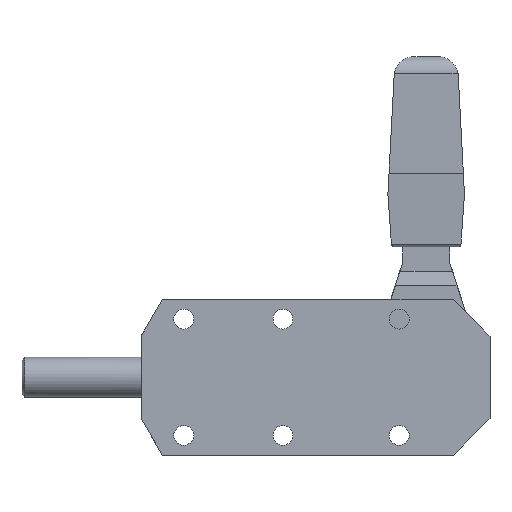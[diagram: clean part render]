
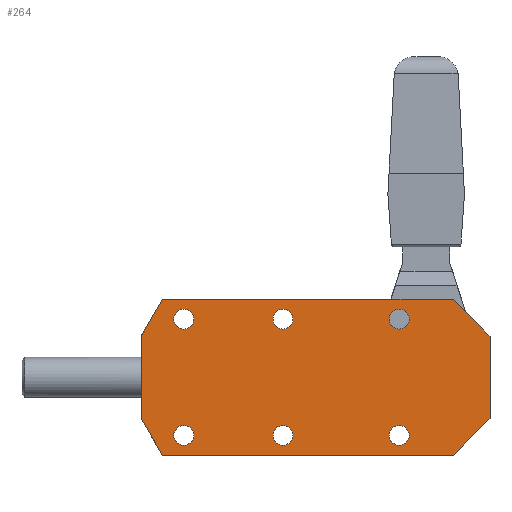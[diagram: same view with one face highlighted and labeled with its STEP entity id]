
A CAD part, front view. The second image highlights one B-rep face of the part: STEP entity #264.
In plain terms, the highlighted planar face has unit normal (0, -1, 0).
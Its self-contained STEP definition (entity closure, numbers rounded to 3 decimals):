
#264 = ADVANCED_FACE( '', ( #422, #423, #424, #425, #426, #427, #428 ), #429, .F. );
#422 = FACE_BOUND( '', #751, .T. );
#423 = FACE_BOUND( '', #752, .T. );
#424 = FACE_BOUND( '', #753, .T. );
#425 = FACE_BOUND( '', #754, .T. );
#426 = FACE_BOUND( '', #755, .T. );
#427 = FACE_BOUND( '', #756, .T. );
#428 = FACE_OUTER_BOUND( '', #757, .T. );
#429 = PLANE( '', #758 );
#751 = EDGE_LOOP( '', ( #1270 ) );
#752 = EDGE_LOOP( '', ( #1271 ) );
#753 = EDGE_LOOP( '', ( #1272 ) );
#754 = EDGE_LOOP( '', ( #1273 ) );
#755 = EDGE_LOOP( '', ( #1274 ) );
#756 = EDGE_LOOP( '', ( #1275 ) );
#757 = EDGE_LOOP( '', ( #1276, #1277, #1278, #1279, #1280, #1281, #1282, #1283 ) );
#758 = AXIS2_PLACEMENT_3D( '', #1284, #1285, #1286 );
#1270 = ORIENTED_EDGE( '', *, *, #2189, .F. );
#1271 = ORIENTED_EDGE( '', *, *, #2190, .F. );
#1272 = ORIENTED_EDGE( '', *, *, #2191, .F. );
#1273 = ORIENTED_EDGE( '', *, *, #2192, .F. );
#1274 = ORIENTED_EDGE( '', *, *, #2193, .F. );
#1275 = ORIENTED_EDGE( '', *, *, #2194, .F. );
#1276 = ORIENTED_EDGE( '', *, *, #2195, .T. );
#1277 = ORIENTED_EDGE( '', *, *, #2196, .T. );
#1278 = ORIENTED_EDGE( '', *, *, #2197, .T. );
#1279 = ORIENTED_EDGE( '', *, *, #2198, .F. );
#1280 = ORIENTED_EDGE( '', *, *, #2199, .F. );
#1281 = ORIENTED_EDGE( '', *, *, #2200, .F. );
#1282 = ORIENTED_EDGE( '', *, *, #2201, .F. );
#1283 = ORIENTED_EDGE( '', *, *, #2183, .F. );
#1284 = CARTESIAN_POINT( '', ( 39.5, 0., 15. ) );
#1285 = DIRECTION( '', ( 0., 1., 0. ) );
#1286 = DIRECTION( '', ( 0., 0., 1. ) );
#2183 = EDGE_CURVE( '', #2568, #2570, #2571, .T. );
#2189 = EDGE_CURVE( '', #2577, #2577, #2578, .T. );
#2190 = EDGE_CURVE( '', #2579, #2579, #2580, .T. );
#2191 = EDGE_CURVE( '', #2581, #2581, #2582, .T. );
#2192 = EDGE_CURVE( '', #2583, #2583, #2584, .T. );
#2193 = EDGE_CURVE( '', #2585, #2585, #2586, .T. );
#2194 = EDGE_CURVE( '', #2587, #2587, #2588, .T. );
#2195 = EDGE_CURVE( '', #2568, #2589, #2590, .T. );
#2196 = EDGE_CURVE( '', #2589, #2591, #2592, .T. );
#2197 = EDGE_CURVE( '', #2591, #2593, #2594, .T. );
#2198 = EDGE_CURVE( '', #2595, #2593, #2596, .T. );
#2199 = EDGE_CURVE( '', #2597, #2595, #2598, .T. );
#2200 = EDGE_CURVE( '', #2599, #2597, #2600, .T. );
#2201 = EDGE_CURVE( '', #2570, #2599, #2601, .T. );
#2568 = VERTEX_POINT( '', #3250 );
#2570 = VERTEX_POINT( '', #3253 );
#2571 = LINE( '', #3254, #3255 );
#2577 = VERTEX_POINT( '', #3266 );
#2578 = CIRCLE( '', #3267, 3.5 );
#2579 = VERTEX_POINT( '', #3268 );
#2580 = CIRCLE( '', #3269, 3.5 );
#2581 = VERTEX_POINT( '', #3270 );
#2582 = CIRCLE( '', #3271, 3.5 );
#2583 = VERTEX_POINT( '', #3272 );
#2584 = CIRCLE( '', #3273, 3.5 );
#2585 = VERTEX_POINT( '', #3274 );
#2586 = CIRCLE( '', #3275, 3.5 );
#2587 = VERTEX_POINT( '', #3276 );
#2588 = CIRCLE( '', #3277, 3.5 );
#2589 = VERTEX_POINT( '', #3278 );
#2590 = LINE( '', #3279, #3280 );
#2591 = VERTEX_POINT( '', #3281 );
#2592 = LINE( '', #3282, #3283 );
#2593 = VERTEX_POINT( '', #3284 );
#2594 = LINE( '', #3285, #3286 );
#2595 = VERTEX_POINT( '', #3287 );
#2596 = LINE( '', #3288, #3289 );
#2597 = VERTEX_POINT( '', #3290 );
#2598 = LINE( '', #3291, #3292 );
#2599 = VERTEX_POINT( '', #3293 );
#2600 = LINE( '', #3294, #3295 );
#2601 = LINE( '', #3296, #3297 );
#3250 = CARTESIAN_POINT( '', ( 7.01, 0., 27.5 ) );
#3253 = CARTESIAN_POINT( '', ( 109.5, 0., 27.5 ) );
#3254 = CARTESIAN_POINT( '', ( -0.5, 0., 27.5 ) );
#3255 = VECTOR( '', #4152, 1000. );
#3266 = CARTESIAN_POINT( '', ( 90.5, 0., -24. ) );
#3267 = AXIS2_PLACEMENT_3D( '', #4158, #4159, #4160 );
#3268 = CARTESIAN_POINT( '', ( 90.5, 0., 17. ) );
#3269 = AXIS2_PLACEMENT_3D( '', #4161, #4162, #4163 );
#3270 = CARTESIAN_POINT( '', ( 14.5, 0., -24. ) );
#3271 = AXIS2_PLACEMENT_3D( '', #4164, #4165, #4166 );
#3272 = CARTESIAN_POINT( '', ( 49.5, 0., 17. ) );
#3273 = AXIS2_PLACEMENT_3D( '', #4167, #4168, #4169 );
#3274 = CARTESIAN_POINT( '', ( 49.5, 0., -24. ) );
#3275 = AXIS2_PLACEMENT_3D( '', #4170, #4171, #4172 );
#3276 = CARTESIAN_POINT( '', ( 14.5, 0., 17. ) );
#3277 = AXIS2_PLACEMENT_3D( '', #4173, #4174, #4175 );
#3278 = CARTESIAN_POINT( '', ( -0.5, 0., 14.5 ) );
#3279 = CARTESIAN_POINT( '', ( 7.01, 0., 27.5 ) );
#3280 = VECTOR( '', #4176, 1000. );
#3281 = CARTESIAN_POINT( '', ( -0.5, 0., -14.5 ) );
#3282 = CARTESIAN_POINT( '', ( -0.5, 0., 15. ) );
#3283 = VECTOR( '', #4177, 1000. );
#3284 = CARTESIAN_POINT( '', ( 7.01, 0., -27.5 ) );
#3285 = CARTESIAN_POINT( '', ( -0.5, 0., -14.5 ) );
#3286 = VECTOR( '', #4178, 1000. );
#3287 = CARTESIAN_POINT( '', ( 109.5, 0., -27.5 ) );
#3288 = CARTESIAN_POINT( '', ( 109.5, 0., -27.5 ) );
#3289 = VECTOR( '', #4179, 1000. );
#3290 = CARTESIAN_POINT( '', ( 122.5, 0., -14.5 ) );
#3291 = CARTESIAN_POINT( '', ( 122.5, 0., -14.5 ) );
#3292 = VECTOR( '', #4180, 1000. );
#3293 = CARTESIAN_POINT( '', ( 122.5, 0., 14.5 ) );
#3294 = CARTESIAN_POINT( '', ( 122.5, 0., 14.5 ) );
#3295 = VECTOR( '', #4181, 1000. );
#3296 = CARTESIAN_POINT( '', ( 109.5, 0., 27.5 ) );
#3297 = VECTOR( '', #4182, 1000. );
#4152 = DIRECTION( '', ( 1., 0., 0. ) );
#4158 = CARTESIAN_POINT( '', ( 90.5, 0., -20.5 ) );
#4159 = DIRECTION( '', ( 0., -1., 0. ) );
#4160 = DIRECTION( '', ( 0., 0., -1. ) );
#4161 = CARTESIAN_POINT( '', ( 90.5, 0., 20.5 ) );
#4162 = DIRECTION( '', ( 0., -1., 0. ) );
#4163 = DIRECTION( '', ( 0., 0., -1. ) );
#4164 = CARTESIAN_POINT( '', ( 14.5, 0., -20.5 ) );
#4165 = DIRECTION( '', ( 0., -1., 0. ) );
#4166 = DIRECTION( '', ( 0., 0., -1. ) );
#4167 = CARTESIAN_POINT( '', ( 49.5, 0., 20.5 ) );
#4168 = DIRECTION( '', ( 0., -1., 0. ) );
#4169 = DIRECTION( '', ( 0., 0., -1. ) );
#4170 = CARTESIAN_POINT( '', ( 49.5, 0., -20.5 ) );
#4171 = DIRECTION( '', ( 0., -1., 0. ) );
#4172 = DIRECTION( '', ( 0., 0., -1. ) );
#4173 = CARTESIAN_POINT( '', ( 14.5, 0., 20.5 ) );
#4174 = DIRECTION( '', ( 0., -1., 0. ) );
#4175 = DIRECTION( '', ( 0., 0., -1. ) );
#4176 = DIRECTION( '', ( -0.5, 0., -0.866 ) );
#4177 = DIRECTION( '', ( 0., 0., -1. ) );
#4178 = DIRECTION( '', ( 0.5, 0., -0.866 ) );
#4179 = DIRECTION( '', ( -1., 0., 0. ) );
#4180 = DIRECTION( '', ( -0.707, 0., -0.707 ) );
#4181 = DIRECTION( '', ( 0., 0., -1. ) );
#4182 = DIRECTION( '', ( 0.707, 0., -0.707 ) );
